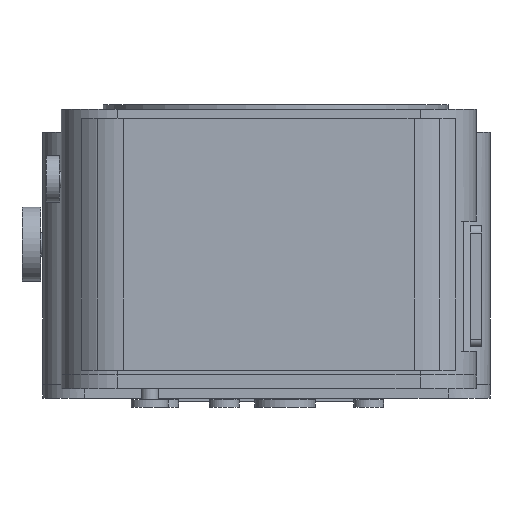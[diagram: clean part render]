
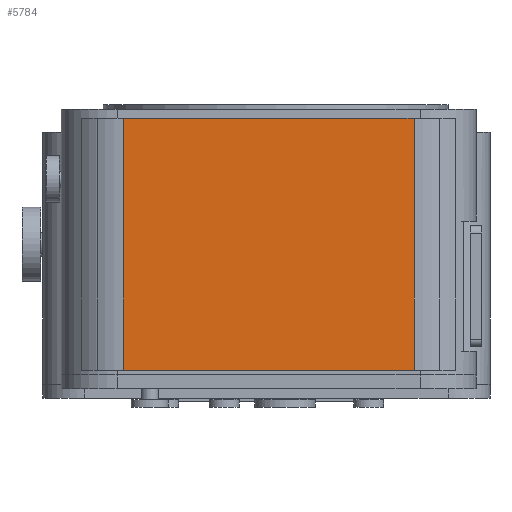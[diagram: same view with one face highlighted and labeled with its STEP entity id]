
A CAD part, left-side view. The second image highlights one B-rep face of the part: STEP entity #5784.
In plain terms, the highlighted planar face has unit normal (-1, 0, 0).
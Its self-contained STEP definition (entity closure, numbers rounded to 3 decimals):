
#5250 = PLANE('',#5251);
#5251 = AXIS2_PLACEMENT_3D('',#5252,#5253,#5254);
#5252 = CARTESIAN_POINT('',(-41.9,-42.,15.));
#5253 = DIRECTION('',(0.,0.,1.));
#5254 = DIRECTION('',(1.,0.,0.));
#5312 = VERTEX_POINT('',#5313);
#5313 = CARTESIAN_POINT('',(-84.1,-29.7,15.));
#5328 = CYLINDRICAL_SURFACE('',#5329,12.3);
#5329 = AXIS2_PLACEMENT_3D('',#5330,#5331,#5332);
#5330 = CARTESIAN_POINT('',(-71.8,-29.7,-39.));
#5331 = DIRECTION('',(-0.,-0.,1.));
#5332 = DIRECTION('',(-1.,-0.,-0.));
#5340 = EDGE_CURVE('',#5312,#5341,#5343,.T.);
#5341 = VERTEX_POINT('',#5342);
#5342 = CARTESIAN_POINT('',(-84.1,32.7,15.));
#5343 = SURFACE_CURVE('',#5344,(#5348,#5355),.PCURVE_S1.);
#5344 = LINE('',#5345,#5346);
#5345 = CARTESIAN_POINT('',(-84.1,-42.,15.));
#5346 = VECTOR('',#5347,1.);
#5347 = DIRECTION('',(-0.,1.,0.));
#5348 = PCURVE('',#5250,#5349);
#5349 = DEFINITIONAL_REPRESENTATION('',(#5350),#5354);
#5350 = LINE('',#5351,#5352);
#5351 = CARTESIAN_POINT('',(-42.2,0.));
#5352 = VECTOR('',#5353,1.);
#5353 = DIRECTION('',(-0.,1.));
#5354 = ( GEOMETRIC_REPRESENTATION_CONTEXT(2) 
PARAMETRIC_REPRESENTATION_CONTEXT() REPRESENTATION_CONTEXT('2D SPACE',''
  ) );
#5355 = PCURVE('',#5356,#5361);
#5356 = PLANE('',#5357);
#5357 = AXIS2_PLACEMENT_3D('',#5358,#5359,#5360);
#5358 = CARTESIAN_POINT('',(-84.1,-42.,-39.));
#5359 = DIRECTION('',(-1.,-0.,0.));
#5360 = DIRECTION('',(0.,0.,-1.));
#5361 = DEFINITIONAL_REPRESENTATION('',(#5362),#5366);
#5362 = LINE('',#5363,#5364);
#5363 = CARTESIAN_POINT('',(-54.,-0.));
#5364 = VECTOR('',#5365,1.);
#5365 = DIRECTION('',(-0.,-1.));
#5366 = ( GEOMETRIC_REPRESENTATION_CONTEXT(2) 
PARAMETRIC_REPRESENTATION_CONTEXT() REPRESENTATION_CONTEXT('2D SPACE',''
  ) );
#5389 = CYLINDRICAL_SURFACE('',#5390,12.3);
#5390 = AXIS2_PLACEMENT_3D('',#5391,#5392,#5393);
#5391 = CARTESIAN_POINT('',(-71.8,32.7,-39.));
#5392 = DIRECTION('',(-0.,-0.,1.));
#5393 = DIRECTION('',(-1.,-0.,-0.));
#5536 = PLANE('',#5537);
#5537 = AXIS2_PLACEMENT_3D('',#5538,#5539,#5540);
#5538 = CARTESIAN_POINT('',(-41.9,-42.,-39.));
#5539 = DIRECTION('',(0.,0.,1.));
#5540 = DIRECTION('',(1.,0.,0.));
#5734 = EDGE_CURVE('',#5735,#5341,#5737,.T.);
#5735 = VERTEX_POINT('',#5736);
#5736 = CARTESIAN_POINT('',(-84.1,32.7,-39.));
#5737 = SURFACE_CURVE('',#5738,(#5742,#5749),.PCURVE_S1.);
#5738 = LINE('',#5739,#5740);
#5739 = CARTESIAN_POINT('',(-84.1,32.7,-39.));
#5740 = VECTOR('',#5741,1.);
#5741 = DIRECTION('',(-0.,-0.,1.));
#5742 = PCURVE('',#5389,#5743);
#5743 = DEFINITIONAL_REPRESENTATION('',(#5744),#5748);
#5744 = LINE('',#5745,#5746);
#5745 = CARTESIAN_POINT('',(-0.,0.));
#5746 = VECTOR('',#5747,1.);
#5747 = DIRECTION('',(-0.,1.));
#5748 = ( GEOMETRIC_REPRESENTATION_CONTEXT(2) 
PARAMETRIC_REPRESENTATION_CONTEXT() REPRESENTATION_CONTEXT('2D SPACE',''
  ) );
#5749 = PCURVE('',#5356,#5750);
#5750 = DEFINITIONAL_REPRESENTATION('',(#5751),#5755);
#5751 = LINE('',#5752,#5753);
#5752 = CARTESIAN_POINT('',(-0.,-74.7));
#5753 = VECTOR('',#5754,1.);
#5754 = DIRECTION('',(-1.,-0.));
#5755 = ( GEOMETRIC_REPRESENTATION_CONTEXT(2) 
PARAMETRIC_REPRESENTATION_CONTEXT() REPRESENTATION_CONTEXT('2D SPACE',''
  ) );
#5784 = ADVANCED_FACE('',(#5785),#5356,.T.);
#5785 = FACE_BOUND('',#5786,.F.);
#5786 = EDGE_LOOP('',(#5787,#5788,#5811,#5832));
#5787 = ORIENTED_EDGE('',*,*,#5340,.F.);
#5788 = ORIENTED_EDGE('',*,*,#5789,.F.);
#5789 = EDGE_CURVE('',#5790,#5312,#5792,.T.);
#5790 = VERTEX_POINT('',#5791);
#5791 = CARTESIAN_POINT('',(-84.1,-29.7,-39.));
#5792 = SURFACE_CURVE('',#5793,(#5797,#5804),.PCURVE_S1.);
#5793 = LINE('',#5794,#5795);
#5794 = CARTESIAN_POINT('',(-84.1,-29.7,-39.));
#5795 = VECTOR('',#5796,1.);
#5796 = DIRECTION('',(-0.,-0.,1.));
#5797 = PCURVE('',#5356,#5798);
#5798 = DEFINITIONAL_REPRESENTATION('',(#5799),#5803);
#5799 = LINE('',#5800,#5801);
#5800 = CARTESIAN_POINT('',(-0.,-12.3));
#5801 = VECTOR('',#5802,1.);
#5802 = DIRECTION('',(-1.,-0.));
#5803 = ( GEOMETRIC_REPRESENTATION_CONTEXT(2) 
PARAMETRIC_REPRESENTATION_CONTEXT() REPRESENTATION_CONTEXT('2D SPACE',''
  ) );
#5804 = PCURVE('',#5328,#5805);
#5805 = DEFINITIONAL_REPRESENTATION('',(#5806),#5810);
#5806 = LINE('',#5807,#5808);
#5807 = CARTESIAN_POINT('',(0.,0.));
#5808 = VECTOR('',#5809,1.);
#5809 = DIRECTION('',(0.,1.));
#5810 = ( GEOMETRIC_REPRESENTATION_CONTEXT(2) 
PARAMETRIC_REPRESENTATION_CONTEXT() REPRESENTATION_CONTEXT('2D SPACE',''
  ) );
#5811 = ORIENTED_EDGE('',*,*,#5812,.T.);
#5812 = EDGE_CURVE('',#5790,#5735,#5813,.T.);
#5813 = SURFACE_CURVE('',#5814,(#5818,#5825),.PCURVE_S1.);
#5814 = LINE('',#5815,#5816);
#5815 = CARTESIAN_POINT('',(-84.1,-42.,-39.));
#5816 = VECTOR('',#5817,1.);
#5817 = DIRECTION('',(-0.,1.,0.));
#5818 = PCURVE('',#5356,#5819);
#5819 = DEFINITIONAL_REPRESENTATION('',(#5820),#5824);
#5820 = LINE('',#5821,#5822);
#5821 = CARTESIAN_POINT('',(-0.,-0.));
#5822 = VECTOR('',#5823,1.);
#5823 = DIRECTION('',(-0.,-1.));
#5824 = ( GEOMETRIC_REPRESENTATION_CONTEXT(2) 
PARAMETRIC_REPRESENTATION_CONTEXT() REPRESENTATION_CONTEXT('2D SPACE',''
  ) );
#5825 = PCURVE('',#5536,#5826);
#5826 = DEFINITIONAL_REPRESENTATION('',(#5827),#5831);
#5827 = LINE('',#5828,#5829);
#5828 = CARTESIAN_POINT('',(-42.2,0.));
#5829 = VECTOR('',#5830,1.);
#5830 = DIRECTION('',(-0.,1.));
#5831 = ( GEOMETRIC_REPRESENTATION_CONTEXT(2) 
PARAMETRIC_REPRESENTATION_CONTEXT() REPRESENTATION_CONTEXT('2D SPACE',''
  ) );
#5832 = ORIENTED_EDGE('',*,*,#5734,.T.);
